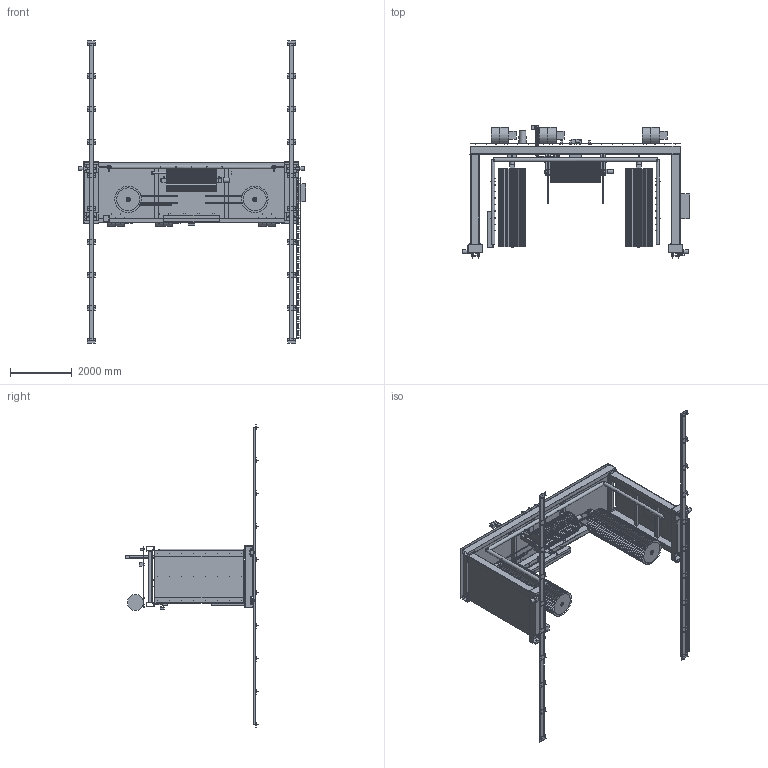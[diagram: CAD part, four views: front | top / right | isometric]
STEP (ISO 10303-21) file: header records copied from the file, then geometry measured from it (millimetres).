
FILE_DESCRIPTION(('Open CASCADE Model'),'2;1');
FILE_NAME('Open CASCADE Shape Model','2026-11-07T07:26:32',('Author'),( 'Open CASCADE'),'Open CASCADE STEP processor 7.9','Open CASCADE 7.9' ,'Unknown');
FILE_SCHEMA(('AUTOMOTIVE_DESIGN { 1 0 10303 214 1 1 1 1 }'));
Length unit declared in the file: millimetre
Products named in the file (82): wash_gantry; Bay; WSH-RAIL#1; WSH-RPL#1; WSH-ANC#1; ECHAIN-120x50#1; Gantry; WSH-TRL#1; WSH-WHL#1; BRG-6210-2RS#1; WSH-GRL#1; ISO4017-M12x50-8.8#1; WSH-TGM#1; WSH-LEG#1; WSH-LCL#1; ISO4017-M16x60-8.8#1; WSH-BEAM#1; WSH-BCV#1; WSH-ARC#1; NOZ-fan#1; WSH-VLV#1; WSH-UBT#1; RAIL25-1600#1; WSH-TLM#1; WSH-SRK#1; RAIL25-1800#1; ISO4762-M6x30-A4-80#1; WSH-BLW#1; WSH-WS1#1; WSH-WDM#1; ISO7380-M6x16-A4-80#1; ISO7380-M5x12-A4-80#1; ISO4017-M10x35-8.8#1; ISO7089-10-fast_zn#1; ISO4017-M8x25-A4-70#1; ISO4762-M6x25-A4-80#1; ISO4017-M10x30-8.8#1; ISO4762-M6x20-A4-80#9; ISO4762-M6x16-A4-80#17; ISO4017-M10x30-A4-70#13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
Assembly tree (594 placements, depth 8):
  wash_gantry
    Bay
      WSH-RAIL#1  x2
      WSH-RPL#1  x20
      WSH-ANC#1  x40
      ECHAIN-120x50#1  x70
      Gantry
        WSH-TRL#1  x2
        WSH-WHL#1  x4
        BRG-6210-2RS#1  x4
        WSH-GRL#1  x8
        ISO4017-M12x50-8.8#1  x16
        WSH-TGM#1  x2
        WSH-LEG#1  x2
        WSH-LCL#1  x2
        ISO4017-M16x60-8.8#1  x32
        WSH-BEAM#1
        WSH-BCV#1
        WSH-ARC#1
        NOZ-fan#1  x23
        WSH-VLV#1  x4
        WSH-UBT#1  x4
        RAIL25-1600#1  x2
        WSH-TLM#1
        WSH-SRK#1  x2
        RAIL25-1800#1  x4
        ISO4762-M6x30-A4-80#1  x48
        WSH-BLW#1  x3
        WSH-WS1#1  x2
        WSH-WDM#1  x2
        ISO7380-M6x16-A4-80#1  x48
        ISO7380-M5x12-A4-80#1  x40
        ISO4017-M10x35-8.8#1  x8
        ISO7089-10-fast_zn#1  x8
        ISO4017-M8x25-A4-70#1  x4
        ISO4762-M6x25-A4-80#1  x26
        ISO4017-M10x30-8.8#1  x12
        ISO4762-M6x20-A4-80#9  x8
        ISO4762-M6x16-A4-80#17  x4
        ISO4017-M10x30-A4-70#13  x4
        ISO4762-M8x25-A4-80#1  x8
        WSH-STL#1
        WSH-LMR#1
        WSH-LMG#1
        WSH-BCN#1
        WSH-CAB#1
        TopBrush
          WSH-TBR#1
          WSH-TSH#1
          WSH-THG#1  x2
          WSH-FBU#1  x2
          ISO4017-M12x40-A4-70#1  x8
          WSH-TBM#1
          BLK25#1  x2
          ISO4017-M10x30-A4-70#13  x4
          ISO4762-M6x20-A4-80#9  x8
        SideBrushL
          WSH-SBRL#1
          WSH-SSH#1
          WSH-SCG#1
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Bounding box: 7380.4 x 4338.1 x 9825.7 mm (x, y, z)
Volume: 4016890304.3 mm3; surface area: 216075233.3 mm2
Topology: 661 solids, 680 shells, 8906 faces, 20239 edges, 13318 vertices
Faces by surface type: plane 6579, cylinder 1730, cone 319, sphere 152, torus 126
Full cylindrical faces by diameter (mm): 5 x40, 5.04 x24, 6 x158, 6.1 x172, 8 x20, 10 x169, 10.5 x8, 11.55 x172, 12 x72, 13 x16, 14 x40, 16 x32, 20 x8, 48 x2, 50 x8, 51.72 x2, 52 x8, 58 x2, 60 x22, 61.2 x24, 70 x2, 78.8 x24, 80 x2, 90 x8, 92 x6, 110 x1, 120 x3, 120.4 x3, 124.4 x3, 140 x3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
Entity records: 88271 total; most frequent: CARTESIAN_POINT 17186, DIRECTION 13299, LINE 7967, VECTOR 7967, ORIENTED_EDGE 6372, PCURVE 6372, DEFINITIONAL_REPRESENTATION 6372, EDGE_CURVE 3186
